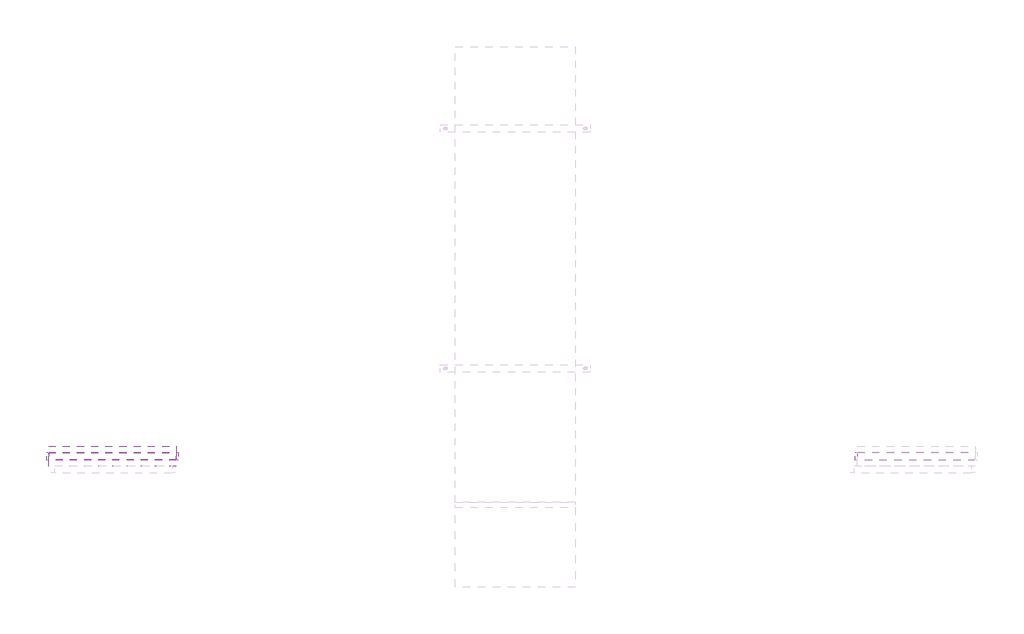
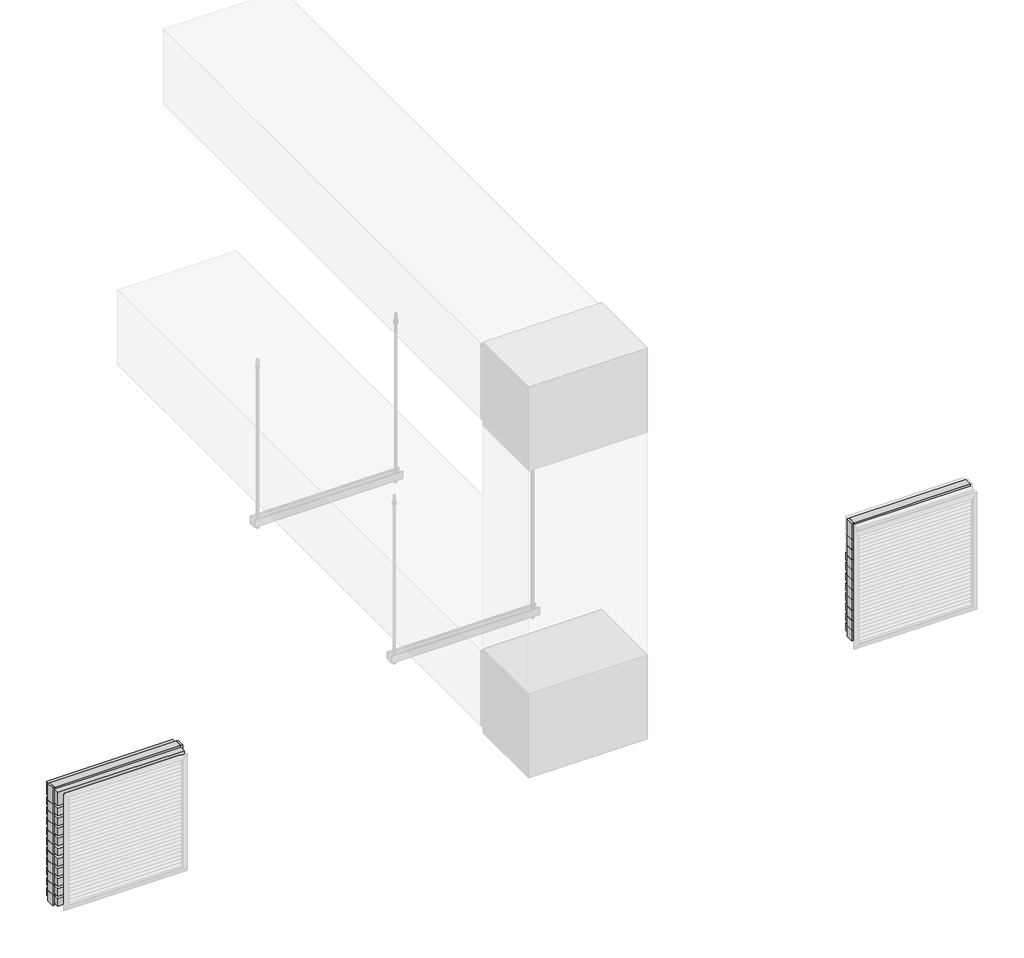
# One storey, part 1 of 2: 60 members, 19 plates.
"""IFC4 building model written with IfcOpenShell, lengths in millimetres."""

import ifcopenshell
import ifcopenshell.guid

model = None  # the IFC model being written
_history = None  # IfcOwnerHistory: only IFC2X3 demands one
_inside = {}  # id of a spatial element -> (the spatial element, [elements in it])
_under = {}  # id of a project, library or spatial element -> (it, [spatial elements below it])
_declared = {}  # id of a project -> (the project, [libraries it declares])
_typed = {}  # id of a type object -> (the type object, [elements of that type])
_made_of = {}  # id of a material, layer set ... -> (it, [elements and type objects made of it])


def new_model(schema):
    """Start an empty IFC model of exactly this schema.

    Asked for "IFC4X3", IfcOpenShell would pick the latest addendum, in which some entities
    have other attributes; the version numbers below select the first issue.
    IFC2X3 requires an IfcOwnerHistory on every rooted entity: one is made here for all.
    """
    global model, _history
    if schema == "IFC4X3":
        model = ifcopenshell.file(schema_version=(4, 3, 0, 0))
    else:
        model = ifcopenshell.file(schema=schema)
    _inside.clear()
    _under.clear()
    _declared.clear()
    _typed.clear()
    _made_of.clear()
    _history = None
    if model.schema == "IFC2X3":
        org = make("IfcOrganization", Name="unknown")
        user = make(
            "IfcPersonAndOrganization",
            ThePerson=make("IfcPerson", FamilyName="unknown"),
            TheOrganization=org,
        )
        app = make(
            "IfcApplication",
            ApplicationDeveloper=org,
            Version="unknown",
            ApplicationFullName="unknown",
            ApplicationIdentifier="unknown",
        )
        _history = make(
            "IfcOwnerHistory",
            OwningUser=user,
            OwningApplication=app,
            ChangeAction="ADDED",
            CreationDate=0,
        )
    return model


def make(cls, **values):
    """One entity of the class cls with the attributes given. An attribute that is None is left unset."""
    return model.create_entity(
        cls, **{name: value for name, value in values.items() if value is not None}
    )


def rooted(cls, **values):
    """An entity with a GlobalId (a new one), such as an element, a storey or a relation."""
    return make(cls, GlobalId=ifcopenshell.guid.new(), OwnerHistory=_history, **values)


def si_unit(unit_type, name, prefix=None):
    """IfcSIUnit, for example si_unit("LENGTHUNIT", "METRE", prefix="MILLI")."""
    return make("IfcSIUnit", UnitType=unit_type, Prefix=prefix, Name=name)


def assignment(units):
    """IfcUnitAssignment: the units of a project."""
    return None if units is None else make("IfcUnitAssignment", Units=units)


def point(xyz):
    """IfcCartesianPoint."""
    return None if xyz is None else make("IfcCartesianPoint", Coordinates=xyz)


def direction(xyz):
    """IfcDirection."""
    return None if xyz is None else make("IfcDirection", DirectionRatios=xyz)


def frame(location, z_axis=None, x_axis=None):
    """IfcAxis2Placement3D, a coordinate frame: its origin and axes. An axis left out is left unset."""
    return make(
        "IfcAxis2Placement3D",
        Location=point(location),
        Axis=direction(z_axis),
        RefDirection=direction(x_axis),
    )


def origin():
    """The frame at (0, 0, 0) with its axes left unset."""
    return frame((0.0, 0.0, 0.0))


def origin_with_axes():
    """The frame at (0, 0, 0) with the z axis (0, 0, 1) and the x axis (1, 0, 0) written out."""
    return frame((0.0, 0.0, 0.0), z_axis=(0.0, 0.0, 1.0), x_axis=(1.0, 0.0, 0.0))


def place(relative_to, where):
    """IfcLocalPlacement: puts the frame where relative to a parent placement (None: the world)."""
    return make(
        "IfcLocalPlacement", PlacementRelTo=relative_to, RelativePlacement=where
    )


def context(
    kind, dimensions, precision=None, world=None, true_north=None, identifier=None
):
    """IfcGeometricRepresentationContext, for example the 3D "Model" context."""
    return make(
        "IfcGeometricRepresentationContext",
        ContextIdentifier=identifier,
        ContextType=kind,
        CoordinateSpaceDimension=dimensions,
        Precision=precision,
        WorldCoordinateSystem=world,
        TrueNorth=true_north,
    )


def project(units=None, contexts=None):
    """IfcProject with its units and contexts."""
    return rooted(
        "IfcProject",
        Name="project",
        RepresentationContexts=contexts,
        UnitsInContext=assignment(units),
    )


def spatial(cls, under=None, at=None, **own):
    """A site, building, storey or space (cls), placed at a placement, below another one or the project."""
    s = rooted(cls, ObjectPlacement=at, **own)
    if under is not None:
        _under.setdefault(under.id(), (under, []))[1].append(s)
    return s


def polyline(points):
    """IfcPolyline through the points."""
    return make("IfcPolyline", Points=[point(p) for p in points])


def outline(outer, holes=None, kind="AREA"):
    """IfcArbitraryClosedProfileDef: a profile drawn as a closed curve; with holes, ...WithVoids."""
    if holes is None:
        return make("IfcArbitraryClosedProfileDef", ProfileType=kind, OuterCurve=outer)
    return make(
        "IfcArbitraryProfileDefWithVoids",
        ProfileType=kind,
        OuterCurve=outer,
        InnerCurves=holes,
    )


def extrude(swept, where, along, depth):
    """IfcExtrudedAreaSolid: the profile swept, set in the frame where, extruded along a direction by depth."""
    return make(
        "IfcExtrudedAreaSolid",
        SweptArea=swept,
        Position=where,
        ExtrudedDirection=direction(along),
        Depth=depth,
    )


def shape(context_of_items, identifier, shape_type, items):
    """IfcShapeRepresentation: the items that make up one representation, for example the "Body"."""
    return make(
        "IfcShapeRepresentation",
        ContextOfItems=context_of_items,
        RepresentationIdentifier=identifier,
        RepresentationType=shape_type,
        Items=items,
    )


def source(mapping_origin, context_of_items, identifier, shape_type, items):
    """IfcRepresentationMap: a shape defined once, which mapped items show again and again."""
    return make(
        "IfcRepresentationMap",
        MappingOrigin=mapping_origin,
        MappedRepresentation=shape(context_of_items, identifier, shape_type, items),
    )


def transform(
    local_origin,
    x_axis=None,
    y_axis=None,
    z_axis=None,
    scale=None,
    scale2=None,
    scale3=None,
    uniform=True,
):
    """IfcCartesianTransformationOperator3D, or its non-uniform kind. x_axis, y_axis, z_axis: its Axis1, 2, 3."""
    if uniform:
        return make(
            "IfcCartesianTransformationOperator3D",
            Axis1=direction(x_axis),
            Axis2=direction(y_axis),
            LocalOrigin=point(local_origin),
            Scale=scale,
            Axis3=direction(z_axis),
        )
    return make(
        "IfcCartesianTransformationOperator3DnonUniform",
        Axis1=direction(x_axis),
        Axis2=direction(y_axis),
        LocalOrigin=point(local_origin),
        Scale=scale,
        Axis3=direction(z_axis),
        Scale2=scale2,
        Scale3=scale3,
    )


def mapped(mapping_source, mapping_target):
    """IfcMappedItem: shows the shape of a source again, moved by a transform."""
    return make(
        "IfcMappedItem", MappingSource=mapping_source, MappingTarget=mapping_target
    )


def made_of(thing, what):
    """Note that an element or type object is made of a material, layer set ...; save() writes the relation."""
    if what is not None:
        _made_of.setdefault(what.id(), (what, []))[1].append(thing)
    return thing


def element(
    cls,
    number,
    at=None,
    inside=None,
    cuts=None,
    type_object=None,
    material=None,
    context=None,
    identifier="Body",
    shape_type=None,
    held_by="IfcProductDefinitionShape",
    body=None,
    shapes=None,
    **own,
):
    """One element of the class cls, such as IfcWall. Its Tag is "e" and its number.

    at: its placement. inside: the storey or other place that contains it. cuts: it is an
    opening in that element (IfcRelVoidsElement). A single representation is given by context,
    identifier, shape_type and body (its items); several are given by shapes. held_by: the class
    of the entity that holds the representations. save() writes the other relations.
    """
    e = rooted(cls, Tag="e%d" % number, ObjectPlacement=at, **own)
    if body is not None:
        shapes = [shape(context, identifier, shape_type, body)]
    if shapes is not None:
        e.Representation = make(held_by, Representations=shapes)
    if inside is not None:
        _inside.setdefault(inside.id(), (inside, []))[1].append(e)
    if cuts is not None:
        rooted(
            "IfcRelVoidsElement", RelatingBuildingElement=cuts, RelatedOpeningElement=e
        )
    if type_object is not None:
        _typed.setdefault(type_object.id(), (type_object, []))[1].append(e)
    return made_of(e, material)


def aggregate(whole, parts):
    """IfcRelAggregates: a whole, such as a stair, and the parts it consists of."""
    return rooted("IfcRelAggregates", RelatingObject=whole, RelatedObjects=parts)


def save(model, path):
    """Write the relations noted so far, then the file.

    IfcRelAggregates (storeys below a building ...), IfcRelContainedInSpatialStructure (elements
    in a storey), IfcRelDefinesByType, IfcRelAssociatesMaterial and IfcRelDeclares: one each for
    every whole, place, type object, material and project.
    """
    for whole, parts in _under.values():
        aggregate(whole, parts)
    for where, things in _inside.values():
        rooted(
            "IfcRelContainedInSpatialStructure",
            RelatedElements=things,
            RelatingStructure=where,
        )
    for kind, things in _typed.values():
        rooted("IfcRelDefinesByType", RelatedObjects=things, RelatingType=kind)
    for what, things in _made_of.values():
        rooted("IfcRelAssociatesMaterial", RelatedObjects=things, RelatingMaterial=what)
    for by, libraries in _declared.values():
        rooted("IfcRelDeclares", RelatingContext=by, RelatedDefinitions=libraries)
    model.write(path)


def rectangular_mullion_ff531f0f(model_context):
    return source(origin(), model_context, "Body", "SweptSolid", [
        extrude(outline(polyline([(-10.6066017, 17.6776695), (17.6776695, -10.6066017), (10.6066017, -17.6776695), (-17.6776695, 10.6066017), (-10.6066017, 17.6776695)])), frame((0.0, 0.0, -639.2393834), z_axis=(0.0, 0.0, 1.0), x_axis=(1.0, 0.0, 0.0)), (0.0, 0.0, 1.0), 639.2393834),
    ])


def rectangular_mullion_0fb44773(model_context):
    return source(origin(), model_context, "Body", "SweptSolid", [
        extrude(outline(polyline([(-10.6066017, 17.6776695), (17.6776695, -10.6066017), (10.6066017, -17.6776695), (-17.6776695, 10.6066017), (-10.6066017, 17.6776695)])), frame((0.0, 0.0, -591.2277107), z_axis=(0.0, 0.0, 1.0), x_axis=(1.0, 0.0, 0.0)), (0.0, 0.0, 1.0), 591.2277107),
    ])


def rectangular_mullion_1x4cm_9a775841(model_context):
    return source(origin(), model_context, "Body", "SweptSolid", [
        extrude(outline(polyline([(0.0, 20.0), (0.0, -20.0), (-10.0, -20.0), (-10.0, 20.0), (0.0, 20.0)])), frame((0.0, 0.0, -639.2393834), z_axis=(0.0, 0.0, 1.0), x_axis=(1.0, 0.0, 0.0)), (0.0, 0.0, 1.0), 639.2393834),
    ])


def rectangular_mullion_1x4cm_b825e446(model_context):
    return source(origin(), model_context, "Body", "SweptSolid", [
        extrude(outline(polyline([(0.0, 20.0), (0.0, -20.0), (-10.0, -20.0), (-10.0, 20.0), (0.0, 20.0)])), frame((0.0, 0.0, -56.9418322), z_axis=(0.0, 0.0, 1.0), x_axis=(1.0, 0.0, 0.0)), (0.0, 0.0, 1.0), 56.9418322),
    ])


def rectangular_mullion_1x4cm_e9e767ec(model_context):
    return source(origin(), model_context, "Body", "SweptSolid", [
        extrude(outline(polyline([(0.0, 20.0), (0.0, -20.0), (-10.0, -20.0), (-10.0, 20.0), (0.0, 20.0)])), frame((0.0, 0.0, -54.0129), z_axis=(0.0, 0.0, 1.0), x_axis=(1.0, 0.0, 0.0)), (0.0, 0.0, 1.0), 54.0129),
    ])


def rectangular_mullion_1x4cm_b486f322(model_context):
    return source(origin(), model_context, "Body", "SweptSolid", [
        extrude(outline(polyline([(0.0, 20.0), (0.0, -20.0), (-10.0, -20.0), (-10.0, 20.0), (0.0, 20.0)])), frame((0.0, 0.0, -87.3695615), z_axis=(0.0, 0.0, 1.0), x_axis=(1.0, 0.0, 0.0)), (0.0, 0.0, 1.0), 87.3695615),
    ])


def rectangular_mullion_1x4cm_1d45312a(model_context):
    return source(origin(), model_context, "Body", "SweptSolid", [
        extrude(outline(polyline([(0.0, 20.0), (0.0, -20.0), (-10.0, -20.0), (-10.0, 20.0), (0.0, 20.0)])), frame((0.0, 0.0, -591.2277107), z_axis=(0.0, 0.0, 1.0), x_axis=(1.0, 0.0, 0.0)), (0.0, 0.0, 1.0), 591.2277107),
    ])


def painel_do_sistema_vazio_vazio_381b0a14(model_context):
    return source(origin(), model_context, "Body", "SweptSolid", [
        extrude(outline(polyline([(319.6196917, -50.0), (-319.6196917, -50.0), (-319.6196917, 50.0), (319.6196917, 50.0), (319.6196917, -50.0)])), origin_with_axes(), (0.0, 0.0, 1.0), 39.8707643),
    ])


def painel_do_sistema_vazio_vazio_f87aa51e(model_context):
    return source(origin(), model_context, "Body", "SweptSolid", [
        extrude(outline(polyline([(319.6196917, -50.0), (-319.6196917, -50.0), (-319.6196917, 50.0), (319.6196917, 50.0), (319.6196917, -50.0)])), origin_with_axes(), (0.0, 0.0, 1.0), 70.2984937),
    ])


def painel_do_sistema_vazio_vazio_02596d65(model_context):
    return source(origin(), model_context, "Body", "SweptSolid", [
        extrude(outline(polyline([(295.6138553, -50.0), (-295.6138553, -50.0), (-295.6138553, 50.0), (295.6138553, 50.0), (295.6138553, -50.0)])), origin_with_axes(), (0.0, 0.0, 1.0), 39.8707643),
    ])


model = new_model("IFC4")

# Units and contexts
model_context = context("Model", 3, world=origin())
ifc_project = project(units=[si_unit("LENGTHUNIT", "METRE", prefix="MILLI")], contexts=[model_context])

# Site, building, storey
site = spatial("IfcSite", under=ifc_project)
building = spatial("IfcBuilding", under=site)
storey = spatial("IfcBuildingStorey", under=building, Name="Térreo", Elevation=52050.0)

# Members
placement = place(None, origin())
rectangular_mullion_shape = rectangular_mullion_ff531f0f(model_context)
element("IfcMember", 1, ObjectType="Rectangular Mullion : 1x4cm 45°", at=placement, inside=storey, context=model_context, shape_type="MappedRepresentation", body=[
    mapped(rectangular_mullion_shape, transform((14408.0706235, -23278.1176009, 54916.7145386), x_axis=(0.0, 0.0, 1.0), y_axis=(0.0, -1.0, 0.0), z_axis=(1.0, 0.0, 0.0))),
])
element("IfcMember", 2, ObjectType="Rectangular Mullion : 1x4cm 45°", at=placement, inside=storey, context=model_context, shape_type="MappedRepresentation", body=[
    mapped(rectangular_mullion_shape, transform((14408.0706235, -23278.1176009, 54970.7274385), x_axis=(0.0, 0.0, 1.0), y_axis=(0.0, -1.0, 0.0), z_axis=(1.0, 0.0, 0.0))),
])
element("IfcMember", 3, ObjectType="Rectangular Mullion : 1x4cm 45°", at=placement, inside=storey, context=model_context, shape_type="MappedRepresentation", body=[
    mapped(rectangular_mullion_shape, transform((14408.0706235, -23278.1176009, 55024.7403385), x_axis=(0.0, 0.0, 1.0), y_axis=(0.0, -1.0, 0.0), z_axis=(1.0, 0.0, 0.0))),
])
element("IfcMember", 4, ObjectType="Rectangular Mullion : 1x4cm 45°", at=placement, inside=storey, context=model_context, shape_type="MappedRepresentation", body=[
    mapped(rectangular_mullion_shape, transform((14408.0706235, -23278.1176009, 55078.7532385), x_axis=(0.0, 0.0, 1.0), y_axis=(0.0, -1.0, 0.0), z_axis=(1.0, 0.0, 0.0))),
])
element("IfcMember", 5, ObjectType="Rectangular Mullion : 1x4cm 45°", at=placement, inside=storey, context=model_context, shape_type="MappedRepresentation", body=[
    mapped(rectangular_mullion_shape, transform((14408.0706235, -23278.1176009, 54592.6371388), x_axis=(0.0, 0.0, 1.0), y_axis=(0.0, -1.0, 0.0), z_axis=(1.0, 0.0, 0.0))),
])
element("IfcMember", 6, ObjectType="Rectangular Mullion : 1x4cm 45°", at=placement, inside=storey, context=model_context, shape_type="MappedRepresentation", body=[
    mapped(rectangular_mullion_shape, transform((14408.0706235, -23278.1176009, 54646.6500387), x_axis=(0.0, 0.0, 1.0), y_axis=(0.0, -1.0, 0.0), z_axis=(1.0, 0.0, 0.0))),
])
element("IfcMember", 7, ObjectType="Rectangular Mullion : 1x4cm 45°", at=placement, inside=storey, context=model_context, shape_type="MappedRepresentation", body=[
    mapped(rectangular_mullion_shape, transform((14408.0706235, -23278.1176009, 54700.6629387), x_axis=(0.0, 0.0, 1.0), y_axis=(0.0, -1.0, 0.0), z_axis=(1.0, 0.0, 0.0))),
])
element("IfcMember", 8, ObjectType="Rectangular Mullion : 1x4cm 45°", at=placement, inside=storey, context=model_context, shape_type="MappedRepresentation", body=[
    mapped(rectangular_mullion_shape, transform((14408.0706235, -23278.1176009, 54754.6758387), x_axis=(0.0, 0.0, 1.0), y_axis=(0.0, -1.0, 0.0), z_axis=(1.0, 0.0, 0.0))),
])
element("IfcMember", 9, ObjectType="Rectangular Mullion : 1x4cm 45°", at=placement, inside=storey, context=model_context, shape_type="MappedRepresentation", body=[
    mapped(rectangular_mullion_shape, transform((14408.0706235, -23278.1176009, 54808.6887386), x_axis=(0.0, 0.0, 1.0), y_axis=(0.0, -1.0, 0.0), z_axis=(1.0, 0.0, 0.0))),
])
element("IfcMember", 10, ObjectType="Rectangular Mullion : 1x4cm 45°", at=placement, inside=storey, context=model_context, shape_type="MappedRepresentation", body=[
    mapped(rectangular_mullion_shape, transform((14408.0706235, -23278.1176009, 54862.7016386), x_axis=(0.0, 0.0, 1.0), y_axis=(0.0, -1.0, 0.0), z_axis=(1.0, 0.0, 0.0))),
])
rectangular_mullion_2_shape = rectangular_mullion_0fb44773(model_context)
element("IfcMember", 11, ObjectType="Rectangular Mullion : 1x4cm 45°", at=placement, inside=storey, context=model_context, shape_type="MappedRepresentation", body=[
    mapped(rectangular_mullion_2_shape, transform((18408.0706235, -23278.1176009, 54592.6371388), x_axis=(0.0, 0.0, 1.0), y_axis=(0.0, -1.0, 0.0), z_axis=(1.0, 0.0, 0.0))),
])
element("IfcMember", 12, ObjectType="Rectangular Mullion : 1x4cm 45°", at=placement, inside=storey, context=model_context, shape_type="MappedRepresentation", body=[
    mapped(rectangular_mullion_2_shape, transform((18408.0706235, -23278.1176009, 54646.6500387), x_axis=(0.0, 0.0, 1.0), y_axis=(0.0, -1.0, 0.0), z_axis=(1.0, 0.0, 0.0))),
])
element("IfcMember", 13, ObjectType="Rectangular Mullion : 1x4cm 45°", at=placement, inside=storey, context=model_context, shape_type="MappedRepresentation", body=[
    mapped(rectangular_mullion_2_shape, transform((18408.0706235, -23278.1176009, 54700.6629387), x_axis=(0.0, 0.0, 1.0), y_axis=(0.0, -1.0, 0.0), z_axis=(1.0, 0.0, 0.0))),
])
element("IfcMember", 14, ObjectType="Rectangular Mullion : 1x4cm 45°", at=placement, inside=storey, context=model_context, shape_type="MappedRepresentation", body=[
    mapped(rectangular_mullion_2_shape, transform((18408.0706235, -23278.1176009, 54754.6758387), x_axis=(0.0, 0.0, 1.0), y_axis=(0.0, -1.0, 0.0), z_axis=(1.0, 0.0, 0.0))),
])
element("IfcMember", 15, ObjectType="Rectangular Mullion : 1x4cm 45°", at=placement, inside=storey, context=model_context, shape_type="MappedRepresentation", body=[
    mapped(rectangular_mullion_2_shape, transform((18408.0706235, -23278.1176009, 54808.6887386), x_axis=(0.0, 0.0, 1.0), y_axis=(0.0, -1.0, 0.0), z_axis=(1.0, 0.0, 0.0))),
])
element("IfcMember", 16, ObjectType="Rectangular Mullion : 1x4cm 45°", at=placement, inside=storey, context=model_context, shape_type="MappedRepresentation", body=[
    mapped(rectangular_mullion_2_shape, transform((18408.0706235, -23278.1176009, 54862.7016386), x_axis=(0.0, 0.0, 1.0), y_axis=(0.0, -1.0, 0.0), z_axis=(1.0, 0.0, 0.0))),
])
rectangular_mullion_1x4cm_shape = rectangular_mullion_1x4cm_9a775841(model_context)
element("IfcMember", 17, ObjectType="Rectangular Mullion : 1x4cm", at=placement, inside=storey, context=model_context, shape_type="MappedRepresentation", body=[
    mapped(rectangular_mullion_1x4cm_shape, transform((14408.0706235, -23278.1176009, 55166.1228), x_axis=(0.0, 0.0, 1.0), y_axis=(0.0, -1.0, 0.0), z_axis=(1.0, 0.0, 0.0))),
])
element("IfcMember", 18, ObjectType="Rectangular Mullion : 1x4cm", at=placement, inside=storey, context=model_context, shape_type="MappedRepresentation", body=[
    mapped(rectangular_mullion_1x4cm_shape, transform((13768.8312401, -23278.1176009, 54535.6953066), x_axis=(0.0, 0.0, -1.0), y_axis=(0.0, -1.0, 0.0), z_axis=(-1.0, 0.0, 0.0))),
])
rectangular_mullion_1x4cm_2_shape = rectangular_mullion_1x4cm_b825e446(model_context)
element("IfcMember", 19, ObjectType="Rectangular Mullion : 1x4cm", at=placement, inside=storey, context=model_context, shape_type="MappedRepresentation", body=[
    mapped(rectangular_mullion_1x4cm_2_shape, transform((18418.0706235, -23278.1176009, 54535.6953066), x_axis=(1.0, 0.0, 0.0), y_axis=(0.0, -1.0, 0.0), z_axis=(0.0, 0.0, -1.0))),
])
element("IfcMember", 20, ObjectType="Rectangular Mullion : 1x4cm", at=placement, inside=storey, context=model_context, shape_type="MappedRepresentation", body=[
    mapped(rectangular_mullion_1x4cm_2_shape, transform((14418.0706235, -23278.1176009, 54535.6953066), x_axis=(1.0, 0.0, 0.0), y_axis=(0.0, -1.0, 0.0), z_axis=(0.0, 0.0, -1.0))),
])
rectangular_mullion_1x4cm_3_shape = rectangular_mullion_1x4cm_e9e767ec(model_context)
element("IfcMember", 21, ObjectType="Rectangular Mullion : 1x4cm", at=placement, inside=storey, context=model_context, shape_type="MappedRepresentation", body=[
    mapped(rectangular_mullion_1x4cm_3_shape, transform((14418.0706235, -23278.1176009, 55024.7403385), x_axis=(1.0, 0.0, 0.0), y_axis=(0.0, -1.0, 0.0), z_axis=(0.0, 0.0, -1.0))),
])
element("IfcMember", 22, ObjectType="Rectangular Mullion : 1x4cm", at=placement, inside=storey, context=model_context, shape_type="MappedRepresentation", body=[
    mapped(rectangular_mullion_1x4cm_3_shape, transform((18418.0706235, -23278.1176009, 54592.6371388), x_axis=(1.0, 0.0, 0.0), y_axis=(0.0, -1.0, 0.0), z_axis=(0.0, 0.0, -1.0))),
])
element("IfcMember", 23, ObjectType="Rectangular Mullion : 1x4cm", at=placement, inside=storey, context=model_context, shape_type="MappedRepresentation", body=[
    mapped(rectangular_mullion_1x4cm_3_shape, transform((18418.0706235, -23278.1176009, 54646.6500387), x_axis=(1.0, 0.0, 0.0), y_axis=(0.0, -1.0, 0.0), z_axis=(0.0, 0.0, -1.0))),
])
element("IfcMember", 24, ObjectType="Rectangular Mullion : 1x4cm", at=placement, inside=storey, context=model_context, shape_type="MappedRepresentation", body=[
    mapped(rectangular_mullion_1x4cm_3_shape, transform((18418.0706235, -23278.1176009, 54700.6629387), x_axis=(1.0, 0.0, 0.0), y_axis=(0.0, -1.0, 0.0), z_axis=(0.0, 0.0, -1.0))),
])
element("IfcMember", 25, ObjectType="Rectangular Mullion : 1x4cm", at=placement, inside=storey, context=model_context, shape_type="MappedRepresentation", body=[
    mapped(rectangular_mullion_1x4cm_3_shape, transform((18418.0706235, -23278.1176009, 54754.6758387), x_axis=(1.0, 0.0, 0.0), y_axis=(0.0, -1.0, 0.0), z_axis=(0.0, 0.0, -1.0))),
])
element("IfcMember", 26, ObjectType="Rectangular Mullion : 1x4cm", at=placement, inside=storey, context=model_context, shape_type="MappedRepresentation", body=[
    mapped(rectangular_mullion_1x4cm_3_shape, transform((18418.0706235, -23278.1176009, 54808.6887386), x_axis=(1.0, 0.0, 0.0), y_axis=(0.0, -1.0, 0.0), z_axis=(0.0, 0.0, -1.0))),
])
element("IfcMember", 27, ObjectType="Rectangular Mullion : 1x4cm", at=placement, inside=storey, context=model_context, shape_type="MappedRepresentation", body=[
    mapped(rectangular_mullion_1x4cm_3_shape, transform((18418.0706235, -23278.1176009, 54862.7016386), x_axis=(1.0, 0.0, 0.0), y_axis=(0.0, -1.0, 0.0), z_axis=(0.0, 0.0, -1.0))),
])
element("IfcMember", 28, ObjectType="Rectangular Mullion : 1x4cm", at=placement, inside=storey, context=model_context, shape_type="MappedRepresentation", body=[
    mapped(rectangular_mullion_1x4cm_3_shape, transform((14418.0706235, -23278.1176009, 54592.6371388), x_axis=(1.0, 0.0, 0.0), y_axis=(0.0, -1.0, 0.0), z_axis=(0.0, 0.0, -1.0))),
])
element("IfcMember", 29, ObjectType="Rectangular Mullion : 1x4cm", at=placement, inside=storey, context=model_context, shape_type="MappedRepresentation", body=[
    mapped(rectangular_mullion_1x4cm_3_shape, transform((14418.0706235, -23278.1176009, 54646.6500387), x_axis=(1.0, 0.0, 0.0), y_axis=(0.0, -1.0, 0.0), z_axis=(0.0, 0.0, -1.0))),
])
element("IfcMember", 30, ObjectType="Rectangular Mullion : 1x4cm", at=placement, inside=storey, context=model_context, shape_type="MappedRepresentation", body=[
    mapped(rectangular_mullion_1x4cm_3_shape, transform((14418.0706235, -23278.1176009, 54700.6629387), x_axis=(1.0, 0.0, 0.0), y_axis=(0.0, -1.0, 0.0), z_axis=(0.0, 0.0, -1.0))),
])
element("IfcMember", 31, ObjectType="Rectangular Mullion : 1x4cm", at=placement, inside=storey, context=model_context, shape_type="MappedRepresentation", body=[
    mapped(rectangular_mullion_1x4cm_3_shape, transform((14418.0706235, -23278.1176009, 54754.6758387), x_axis=(1.0, 0.0, 0.0), y_axis=(0.0, -1.0, 0.0), z_axis=(0.0, 0.0, -1.0))),
])
element("IfcMember", 32, ObjectType="Rectangular Mullion : 1x4cm", at=placement, inside=storey, context=model_context, shape_type="MappedRepresentation", body=[
    mapped(rectangular_mullion_1x4cm_3_shape, transform((14418.0706235, -23278.1176009, 54808.6887386), x_axis=(1.0, 0.0, 0.0), y_axis=(0.0, -1.0, 0.0), z_axis=(0.0, 0.0, -1.0))),
])
element("IfcMember", 33, ObjectType="Rectangular Mullion : 1x4cm", at=placement, inside=storey, context=model_context, shape_type="MappedRepresentation", body=[
    mapped(rectangular_mullion_1x4cm_3_shape, transform((14418.0706235, -23278.1176009, 54862.7016386), x_axis=(1.0, 0.0, 0.0), y_axis=(0.0, -1.0, 0.0), z_axis=(0.0, 0.0, -1.0))),
])
element("IfcMember", 34, ObjectType="Rectangular Mullion : 1x4cm", at=placement, inside=storey, context=model_context, shape_type="MappedRepresentation", body=[
    mapped(rectangular_mullion_1x4cm_3_shape, transform((14418.0706235, -23278.1176009, 54916.7145386), x_axis=(1.0, 0.0, 0.0), y_axis=(0.0, -1.0, 0.0), z_axis=(0.0, 0.0, -1.0))),
])
element("IfcMember", 35, ObjectType="Rectangular Mullion : 1x4cm", at=placement, inside=storey, context=model_context, shape_type="MappedRepresentation", body=[
    mapped(rectangular_mullion_1x4cm_3_shape, transform((14418.0706235, -23278.1176009, 54970.7274385), x_axis=(1.0, 0.0, 0.0), y_axis=(0.0, -1.0, 0.0), z_axis=(0.0, 0.0, -1.0))),
])
rectangular_mullion_1x4cm_4_shape = rectangular_mullion_1x4cm_b486f322(model_context)
element("IfcMember", 36, ObjectType="Rectangular Mullion : 1x4cm", at=placement, inside=storey, context=model_context, shape_type="MappedRepresentation", body=[
    mapped(rectangular_mullion_1x4cm_4_shape, transform((17806.8429128, -23278.1176009, 55166.1228), x_axis=(-1.0, 0.0, 0.0), y_axis=(0.0, -1.0, 0.0), z_axis=(0.0, 0.0, 1.0))),
])
element("IfcMember", 37, ObjectType="Rectangular Mullion : 1x4cm", at=placement, inside=storey, context=model_context, shape_type="MappedRepresentation", body=[
    mapped(rectangular_mullion_1x4cm_4_shape, transform((13758.8312401, -23278.1176009, 55166.1228), x_axis=(-1.0, 0.0, 0.0), y_axis=(0.0, -1.0, 0.0), z_axis=(0.0, 0.0, 1.0))),
])
element("IfcMember", 38, ObjectType="Rectangular Mullion : 1x4cm", at=placement, inside=storey, context=model_context, shape_type="MappedRepresentation", body=[
    mapped(rectangular_mullion_1x4cm_2_shape, transform((17806.8429128, -23278.1176009, 54592.6371388), x_axis=(-1.0, 0.0, 0.0), y_axis=(0.0, -1.0, 0.0), z_axis=(0.0, 0.0, 1.0))),
])
element("IfcMember", 39, ObjectType="Rectangular Mullion : 1x4cm", at=placement, inside=storey, context=model_context, shape_type="MappedRepresentation", body=[
    mapped(rectangular_mullion_1x4cm_2_shape, transform((13758.8312401, -23278.1176009, 54592.6371388), x_axis=(-1.0, 0.0, 0.0), y_axis=(0.0, -1.0, 0.0), z_axis=(0.0, 0.0, 1.0))),
])
element("IfcMember", 40, ObjectType="Rectangular Mullion : 1x4cm", at=placement, inside=storey, context=model_context, shape_type="MappedRepresentation", body=[
    mapped(rectangular_mullion_1x4cm_3_shape, transform((13758.8312401, -23278.1176009, 54916.7145386), x_axis=(-1.0, 0.0, 0.0), y_axis=(0.0, -1.0, 0.0), z_axis=(0.0, 0.0, 1.0))),
])
element("IfcMember", 41, ObjectType="Rectangular Mullion : 1x4cm", at=placement, inside=storey, context=model_context, shape_type="MappedRepresentation", body=[
    mapped(rectangular_mullion_1x4cm_3_shape, transform((13758.8312401, -23278.1176009, 54970.7274385), x_axis=(-1.0, 0.0, 0.0), y_axis=(0.0, -1.0, 0.0), z_axis=(0.0, 0.0, 1.0))),
])
element("IfcMember", 42, ObjectType="Rectangular Mullion : 1x4cm", at=placement, inside=storey, context=model_context, shape_type="MappedRepresentation", body=[
    mapped(rectangular_mullion_1x4cm_3_shape, transform((13758.8312401, -23278.1176009, 55024.7403385), x_axis=(-1.0, 0.0, 0.0), y_axis=(0.0, -1.0, 0.0), z_axis=(0.0, 0.0, 1.0))),
])
element("IfcMember", 43, ObjectType="Rectangular Mullion : 1x4cm", at=placement, inside=storey, context=model_context, shape_type="MappedRepresentation", body=[
    mapped(rectangular_mullion_1x4cm_3_shape, transform((13758.8312401, -23278.1176009, 55078.7532385), x_axis=(-1.0, 0.0, 0.0), y_axis=(0.0, -1.0, 0.0), z_axis=(0.0, 0.0, 1.0))),
])
element("IfcMember", 44, ObjectType="Rectangular Mullion : 1x4cm", at=placement, inside=storey, context=model_context, shape_type="MappedRepresentation", body=[
    mapped(rectangular_mullion_1x4cm_3_shape, transform((17806.8429128, -23278.1176009, 54646.6500387), x_axis=(-1.0, 0.0, 0.0), y_axis=(0.0, -1.0, 0.0), z_axis=(0.0, 0.0, 1.0))),
])
element("IfcMember", 45, ObjectType="Rectangular Mullion : 1x4cm", at=placement, inside=storey, context=model_context, shape_type="MappedRepresentation", body=[
    mapped(rectangular_mullion_1x4cm_3_shape, transform((17806.8429128, -23278.1176009, 54700.6629387), x_axis=(-1.0, 0.0, 0.0), y_axis=(0.0, -1.0, 0.0), z_axis=(0.0, 0.0, 1.0))),
])
element("IfcMember", 46, ObjectType="Rectangular Mullion : 1x4cm", at=placement, inside=storey, context=model_context, shape_type="MappedRepresentation", body=[
    mapped(rectangular_mullion_1x4cm_3_shape, transform((17806.8429128, -23278.1176009, 54754.6758387), x_axis=(-1.0, 0.0, 0.0), y_axis=(0.0, -1.0, 0.0), z_axis=(0.0, 0.0, 1.0))),
])
element("IfcMember", 47, ObjectType="Rectangular Mullion : 1x4cm", at=placement, inside=storey, context=model_context, shape_type="MappedRepresentation", body=[
    mapped(rectangular_mullion_1x4cm_3_shape, transform((17806.8429128, -23278.1176009, 54808.6887386), x_axis=(-1.0, 0.0, 0.0), y_axis=(0.0, -1.0, 0.0), z_axis=(0.0, 0.0, 1.0))),
])
element("IfcMember", 48, ObjectType="Rectangular Mullion : 1x4cm", at=placement, inside=storey, context=model_context, shape_type="MappedRepresentation", body=[
    mapped(rectangular_mullion_1x4cm_3_shape, transform((17806.8429128, -23278.1176009, 54862.7016386), x_axis=(-1.0, 0.0, 0.0), y_axis=(0.0, -1.0, 0.0), z_axis=(0.0, 0.0, 1.0))),
])
element("IfcMember", 49, ObjectType="Rectangular Mullion : 1x4cm", at=placement, inside=storey, context=model_context, shape_type="MappedRepresentation", body=[
    mapped(rectangular_mullion_1x4cm_3_shape, transform((17806.8429128, -23278.1176009, 54916.7145386), x_axis=(-1.0, 0.0, 0.0), y_axis=(0.0, -1.0, 0.0), z_axis=(0.0, 0.0, 1.0))),
])
element("IfcMember", 50, ObjectType="Rectangular Mullion : 1x4cm", at=placement, inside=storey, context=model_context, shape_type="MappedRepresentation", body=[
    mapped(rectangular_mullion_1x4cm_3_shape, transform((17806.8429128, -23278.1176009, 54970.7274385), x_axis=(-1.0, 0.0, 0.0), y_axis=(0.0, -1.0, 0.0), z_axis=(0.0, 0.0, 1.0))),
])
element("IfcMember", 51, ObjectType="Rectangular Mullion : 1x4cm", at=placement, inside=storey, context=model_context, shape_type="MappedRepresentation", body=[
    mapped(rectangular_mullion_1x4cm_3_shape, transform((17806.8429128, -23278.1176009, 55024.7403385), x_axis=(-1.0, 0.0, 0.0), y_axis=(0.0, -1.0, 0.0), z_axis=(0.0, 0.0, 1.0))),
])
element("IfcMember", 52, ObjectType="Rectangular Mullion : 1x4cm", at=placement, inside=storey, context=model_context, shape_type="MappedRepresentation", body=[
    mapped(rectangular_mullion_1x4cm_3_shape, transform((17806.8429128, -23278.1176009, 55078.7532385), x_axis=(-1.0, 0.0, 0.0), y_axis=(0.0, -1.0, 0.0), z_axis=(0.0, 0.0, 1.0))),
])
element("IfcMember", 53, ObjectType="Rectangular Mullion : 1x4cm", at=placement, inside=storey, context=model_context, shape_type="MappedRepresentation", body=[
    mapped(rectangular_mullion_1x4cm_3_shape, transform((13758.8312401, -23278.1176009, 54646.6500387), x_axis=(-1.0, 0.0, 0.0), y_axis=(0.0, -1.0, 0.0), z_axis=(0.0, 0.0, 1.0))),
])
element("IfcMember", 54, ObjectType="Rectangular Mullion : 1x4cm", at=placement, inside=storey, context=model_context, shape_type="MappedRepresentation", body=[
    mapped(rectangular_mullion_1x4cm_3_shape, transform((13758.8312401, -23278.1176009, 54700.6629387), x_axis=(-1.0, 0.0, 0.0), y_axis=(0.0, -1.0, 0.0), z_axis=(0.0, 0.0, 1.0))),
])
element("IfcMember", 55, ObjectType="Rectangular Mullion : 1x4cm", at=placement, inside=storey, context=model_context, shape_type="MappedRepresentation", body=[
    mapped(rectangular_mullion_1x4cm_3_shape, transform((13758.8312401, -23278.1176009, 54754.6758387), x_axis=(-1.0, 0.0, 0.0), y_axis=(0.0, -1.0, 0.0), z_axis=(0.0, 0.0, 1.0))),
])
element("IfcMember", 56, ObjectType="Rectangular Mullion : 1x4cm", at=placement, inside=storey, context=model_context, shape_type="MappedRepresentation", body=[
    mapped(rectangular_mullion_1x4cm_3_shape, transform((13758.8312401, -23278.1176009, 54808.6887386), x_axis=(-1.0, 0.0, 0.0), y_axis=(0.0, -1.0, 0.0), z_axis=(0.0, 0.0, 1.0))),
])
element("IfcMember", 57, ObjectType="Rectangular Mullion : 1x4cm", at=placement, inside=storey, context=model_context, shape_type="MappedRepresentation", body=[
    mapped(rectangular_mullion_1x4cm_3_shape, transform((13758.8312401, -23278.1176009, 54862.7016386), x_axis=(-1.0, 0.0, 0.0), y_axis=(0.0, -1.0, 0.0), z_axis=(0.0, 0.0, 1.0))),
])
element("IfcMember", 58, ObjectType="Rectangular Mullion : 1x4cm", at=placement, inside=storey, context=model_context, shape_type="MappedRepresentation", body=[
    mapped(rectangular_mullion_1x4cm_4_shape, transform((14418.0706235, -23278.1176009, 55078.7532385), x_axis=(1.0, 0.0, 0.0), y_axis=(0.0, -1.0, 0.0), z_axis=(0.0, 0.0, -1.0))),
])
rectangular_mullion_1x4cm_5_shape = rectangular_mullion_1x4cm_1d45312a(model_context)
element("IfcMember", 59, ObjectType="Rectangular Mullion : 1x4cm", at=placement, inside=storey, context=model_context, shape_type="MappedRepresentation", body=[
    mapped(rectangular_mullion_1x4cm_5_shape, transform((18408.0706235, -23278.1176009, 55166.1228), x_axis=(0.0, 0.0, 1.0), y_axis=(0.0, -1.0, 0.0), z_axis=(1.0, 0.0, 0.0))),
])
element("IfcMember", 60, ObjectType="Rectangular Mullion : 1x4cm", at=placement, inside=storey, context=model_context, shape_type="MappedRepresentation", body=[
    mapped(rectangular_mullion_1x4cm_5_shape, transform((17816.8429128, -23278.1176009, 54535.6953066), x_axis=(0.0, 0.0, -1.0), y_axis=(0.0, -1.0, 0.0), z_axis=(-1.0, 0.0, 0.0))),
])

# Plates
painel_do_sistema_vazio_vazio_shape = painel_do_sistema_vazio_vazio_381b0a14(model_context)
element("IfcPlate", 61, ObjectType="Painel do sistema vazio : Vazio", at=placement, inside=storey, context=model_context, shape_type="MappedRepresentation", body=[
    mapped(painel_do_sistema_vazio_vazio_shape, transform((14088.4509318, -23278.1176009, 55031.8114063), x_axis=(1.0, 0.0, 0.0), y_axis=(0.0, 1.0, 0.0), z_axis=(0.0, 0.0, 1.0))),
])
element("IfcPlate", 62, ObjectType="Painel do sistema vazio : Vazio", at=placement, inside=storey, context=model_context, shape_type="MappedRepresentation", body=[
    mapped(painel_do_sistema_vazio_vazio_shape, transform((14088.4509318, -23278.1176009, 54545.6953066), x_axis=(1.0, 0.0, 0.0), y_axis=(0.0, 1.0, 0.0), z_axis=(0.0, 0.0, 1.0))),
])
element("IfcPlate", 63, ObjectType="Painel do sistema vazio : Vazio", at=placement, inside=storey, context=model_context, shape_type="MappedRepresentation", body=[
    mapped(painel_do_sistema_vazio_vazio_shape, transform((14088.4509318, -23278.1176009, 54599.7082066), x_axis=(1.0, 0.0, 0.0), y_axis=(0.0, 1.0, 0.0), z_axis=(0.0, 0.0, 1.0))),
])
element("IfcPlate", 64, ObjectType="Painel do sistema vazio : Vazio", at=placement, inside=storey, context=model_context, shape_type="MappedRepresentation", body=[
    mapped(painel_do_sistema_vazio_vazio_shape, transform((14088.4509318, -23278.1176009, 54653.7211065), x_axis=(1.0, 0.0, 0.0), y_axis=(0.0, 1.0, 0.0), z_axis=(0.0, 0.0, 1.0))),
])
element("IfcPlate", 65, ObjectType="Painel do sistema vazio : Vazio", at=placement, inside=storey, context=model_context, shape_type="MappedRepresentation", body=[
    mapped(painel_do_sistema_vazio_vazio_shape, transform((14088.4509318, -23278.1176009, 54707.7340065), x_axis=(1.0, 0.0, 0.0), y_axis=(0.0, 1.0, 0.0), z_axis=(0.0, 0.0, 1.0))),
])
element("IfcPlate", 66, ObjectType="Painel do sistema vazio : Vazio", at=placement, inside=storey, context=model_context, shape_type="MappedRepresentation", body=[
    mapped(painel_do_sistema_vazio_vazio_shape, transform((14088.4509318, -23278.1176009, 54761.7469065), x_axis=(1.0, 0.0, 0.0), y_axis=(0.0, 1.0, 0.0), z_axis=(0.0, 0.0, 1.0))),
])
element("IfcPlate", 67, ObjectType="Painel do sistema vazio : Vazio", at=placement, inside=storey, context=model_context, shape_type="MappedRepresentation", body=[
    mapped(painel_do_sistema_vazio_vazio_shape, transform((14088.4509318, -23278.1176009, 54815.7598064), x_axis=(1.0, 0.0, 0.0), y_axis=(0.0, 1.0, 0.0), z_axis=(0.0, 0.0, 1.0))),
])
element("IfcPlate", 68, ObjectType="Painel do sistema vazio : Vazio", at=placement, inside=storey, context=model_context, shape_type="MappedRepresentation", body=[
    mapped(painel_do_sistema_vazio_vazio_shape, transform((14088.4509318, -23278.1176009, 54869.7727064), x_axis=(1.0, 0.0, 0.0), y_axis=(0.0, 1.0, 0.0), z_axis=(0.0, 0.0, 1.0))),
])
element("IfcPlate", 69, ObjectType="Painel do sistema vazio : Vazio", at=placement, inside=storey, context=model_context, shape_type="MappedRepresentation", body=[
    mapped(painel_do_sistema_vazio_vazio_shape, transform((14088.4509318, -23278.1176009, 54923.7856064), x_axis=(1.0, 0.0, 0.0), y_axis=(0.0, 1.0, 0.0), z_axis=(0.0, 0.0, 1.0))),
])
element("IfcPlate", 70, ObjectType="Painel do sistema vazio : Vazio", at=placement, inside=storey, context=model_context, shape_type="MappedRepresentation", body=[
    mapped(painel_do_sistema_vazio_vazio_shape, transform((14088.4509318, -23278.1176009, 54977.7985063), x_axis=(1.0, 0.0, 0.0), y_axis=(0.0, 1.0, 0.0), z_axis=(0.0, 0.0, 1.0))),
])
painel_do_sistema_vazio_vazio_2_shape = painel_do_sistema_vazio_vazio_f87aa51e(model_context)
element("IfcPlate", 71, ObjectType="Painel do sistema vazio : Vazio", at=placement, inside=storey, context=model_context, shape_type="MappedRepresentation", body=[
    mapped(painel_do_sistema_vazio_vazio_2_shape, transform((14088.4509318, -23278.1176009, 55085.8243063), x_axis=(1.0, 0.0, 0.0), y_axis=(0.0, 1.0, 0.0), z_axis=(0.0, 0.0, 1.0))),
])
painel_do_sistema_vazio_vazio_3_shape = painel_do_sistema_vazio_vazio_02596d65(model_context)
element("IfcPlate", 72, ObjectType="Painel do sistema vazio : Vazio", at=placement, inside=storey, context=model_context, shape_type="MappedRepresentation", body=[
    mapped(painel_do_sistema_vazio_vazio_3_shape, transform((18112.4567682, -23278.1176009, 54545.6953066), x_axis=(1.0, 0.0, 0.0), y_axis=(0.0, 1.0, 0.0), z_axis=(0.0, 0.0, 1.0))),
])
element("IfcPlate", 73, ObjectType="Painel do sistema vazio : Vazio", at=placement, inside=storey, context=model_context, shape_type="MappedRepresentation", body=[
    mapped(painel_do_sistema_vazio_vazio_3_shape, transform((18112.4567682, -23278.1176009, 54599.7082066), x_axis=(1.0, 0.0, 0.0), y_axis=(0.0, 1.0, 0.0), z_axis=(0.0, 0.0, 1.0))),
])
element("IfcPlate", 74, ObjectType="Painel do sistema vazio : Vazio", at=placement, inside=storey, context=model_context, shape_type="MappedRepresentation", body=[
    mapped(painel_do_sistema_vazio_vazio_3_shape, transform((18112.4567682, -23278.1176009, 54653.7211065), x_axis=(1.0, 0.0, 0.0), y_axis=(0.0, 1.0, 0.0), z_axis=(0.0, 0.0, 1.0))),
])
element("IfcPlate", 75, ObjectType="Painel do sistema vazio : Vazio", at=placement, inside=storey, context=model_context, shape_type="MappedRepresentation", body=[
    mapped(painel_do_sistema_vazio_vazio_3_shape, transform((18112.4567682, -23278.1176009, 54707.7340065), x_axis=(1.0, 0.0, 0.0), y_axis=(0.0, 1.0, 0.0), z_axis=(0.0, 0.0, 1.0))),
])
element("IfcPlate", 76, ObjectType="Painel do sistema vazio : Vazio", at=placement, inside=storey, context=model_context, shape_type="MappedRepresentation", body=[
    mapped(painel_do_sistema_vazio_vazio_3_shape, transform((18112.4567682, -23278.1176009, 54761.7469065), x_axis=(1.0, 0.0, 0.0), y_axis=(0.0, 1.0, 0.0), z_axis=(0.0, 0.0, 1.0))),
])
element("IfcPlate", 77, ObjectType="Painel do sistema vazio : Vazio", at=placement, inside=storey, context=model_context, shape_type="MappedRepresentation", body=[
    mapped(painel_do_sistema_vazio_vazio_3_shape, transform((18112.4567682, -23278.1176009, 54815.7598064), x_axis=(1.0, 0.0, 0.0), y_axis=(0.0, 1.0, 0.0), z_axis=(0.0, 0.0, 1.0))),
])
element("IfcPlate", 78, ObjectType="Painel do sistema vazio : Vazio", at=placement, inside=storey, context=model_context, shape_type="MappedRepresentation", body=[
    mapped(painel_do_sistema_vazio_vazio_3_shape, transform((18112.4567682, -23278.1176009, 54869.7727064), x_axis=(1.0, 0.0, 0.0), y_axis=(0.0, 1.0, 0.0), z_axis=(0.0, 0.0, 1.0))),
])
element("IfcPlate", 79, ObjectType="Painel do sistema vazio : Vazio", at=placement, inside=storey, context=model_context, shape_type="MappedRepresentation", body=[
    mapped(painel_do_sistema_vazio_vazio_3_shape, transform((18112.4567682, -23278.1176009, 54923.7856064), x_axis=(1.0, 0.0, 0.0), y_axis=(0.0, 1.0, 0.0), z_axis=(0.0, 0.0, 1.0))),
])

save(model, "model.ifc")
